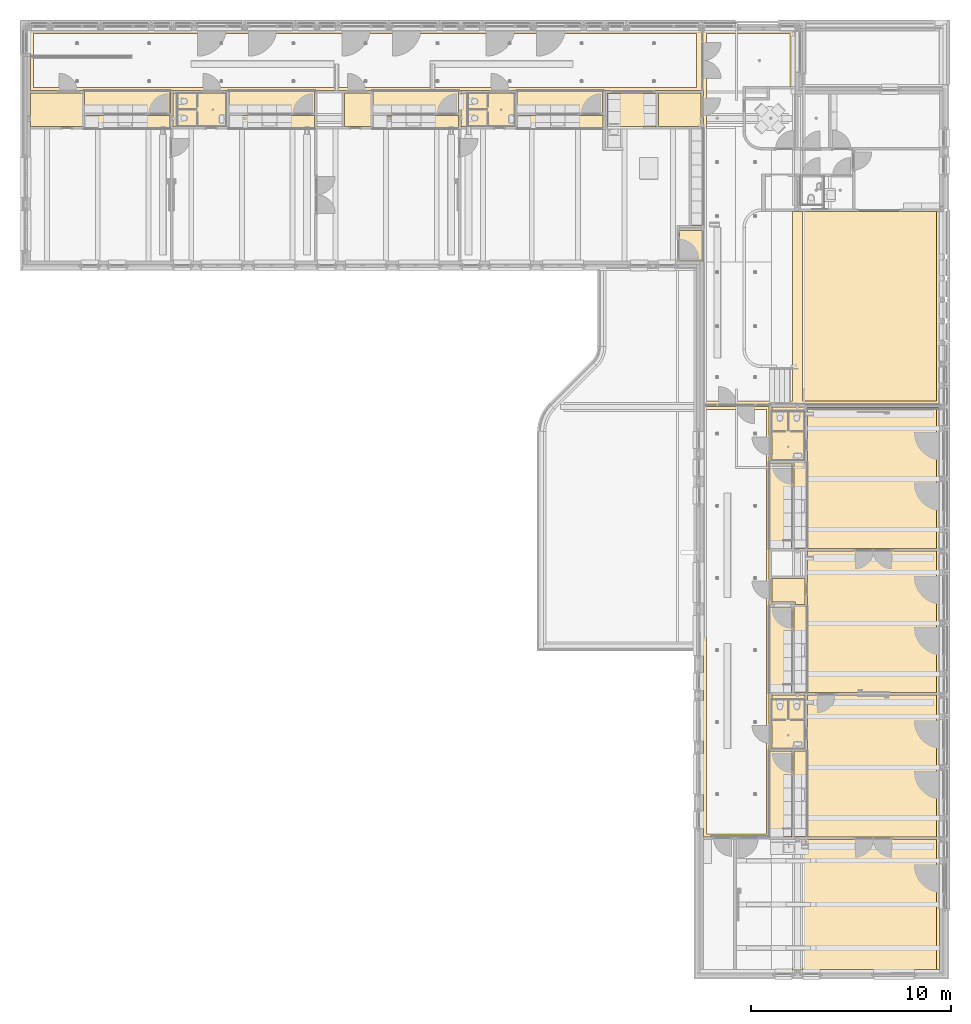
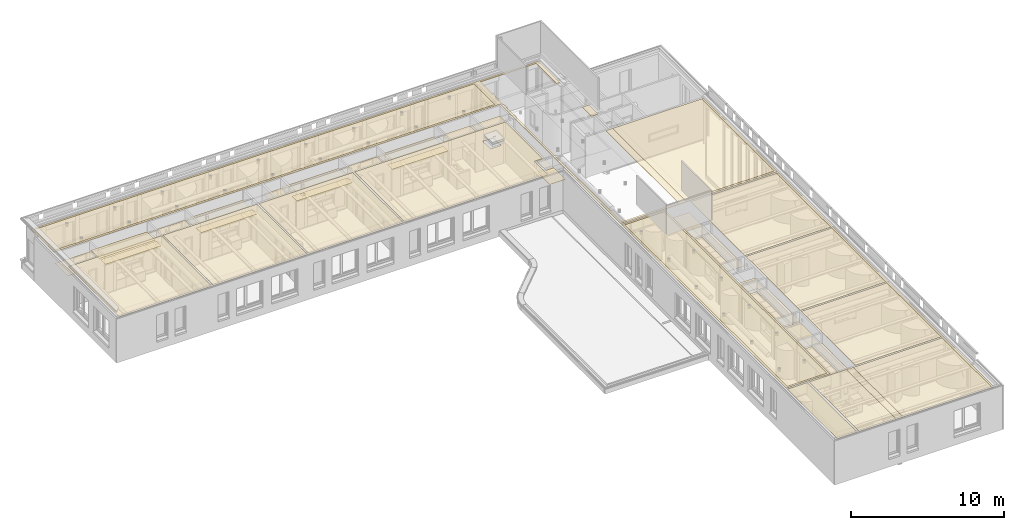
# One storey, part 73 of 128: 21 coverings.
"""IFC2X3 building model written with IfcOpenShell, lengths in millimetres."""

from ifc_helpers import new_model, entity, si_unit, converted_unit, derived_unit, direction, frame, frame_2d, origin, origin_2d_with_axis, place, context, subcontext, project, spatial, polyline, circle_curve, parameter, trimmed, segment, composite_curve, rectangle, outline, extrude, material, layer, layer_set, layer_usage, type_object, element, save


model = new_model("IFC2X3")

# Units and contexts
model_context = context("Model", 3, precision=0.01, world=origin(), true_north=direction((6.123031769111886e-17, 1.0)))
body_context = subcontext(model_context, "Body", "Model", "MODEL_VIEW")
ifc_project = project(units=[si_unit("LENGTHUNIT", "METRE", prefix="MILLI"), si_unit("AREAUNIT", "SQUARE_METRE"), si_unit("VOLUMEUNIT", "CUBIC_METRE"), converted_unit("PLANEANGLEUNIT", "DEGREE", entity("IfcRatioMeasure", 0.017453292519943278), si_unit("PLANEANGLEUNIT", "RADIAN"), dimensions=[0, 0, 0, 0, 0, 0, 0]), si_unit("MASSUNIT", "GRAM", prefix="KILO"), derived_unit("MASSDENSITYUNIT", [(si_unit("MASSUNIT", "GRAM", prefix="KILO"), 1), (si_unit("LENGTHUNIT", "METRE"), -3)]), derived_unit("IONCONCENTRATIONUNIT", [(si_unit("MASSUNIT", "GRAM", prefix="KILO"), 1), (si_unit("LENGTHUNIT", "METRE"), -3)]), derived_unit("MOMENTOFINERTIAUNIT", [(si_unit("LENGTHUNIT", "METRE"), 4)]), si_unit("TIMEUNIT", "SECOND"), si_unit("FREQUENCYUNIT", "HERTZ"), si_unit("THERMODYNAMICTEMPERATUREUNIT", "DEGREE_CELSIUS"), derived_unit("THERMALTRANSMITTANCEUNIT", [(si_unit("MASSUNIT", "GRAM", prefix="KILO"), 1), (si_unit("THERMODYNAMICTEMPERATUREUNIT", "KELVIN"), -1), (si_unit("TIMEUNIT", "SECOND"), -3)]), derived_unit("THERMALCONDUCTANCEUNIT", [(si_unit("MASSUNIT", "GRAM", prefix="KILO"), 1), (si_unit("THERMODYNAMICTEMPERATUREUNIT", "KELVIN"), -1), (si_unit("TIMEUNIT", "SECOND"), -3), (si_unit("LENGTHUNIT", "METRE"), 1)]), derived_unit("VOLUMETRICFLOWRATEUNIT", [(si_unit("LENGTHUNIT", "METRE"), 3), (si_unit("TIMEUNIT", "SECOND"), -1)]), derived_unit("MASSFLOWRATEUNIT", [(si_unit("MASSUNIT", "GRAM", prefix="KILO"), 1), (si_unit("TIMEUNIT", "SECOND"), -1)]), derived_unit("ROTATIONALFREQUENCYUNIT", [(si_unit("TIMEUNIT", "SECOND"), -1)]), si_unit("ELECTRICCURRENTUNIT", "AMPERE"), si_unit("ELECTRICVOLTAGEUNIT", "VOLT"), si_unit("POWERUNIT", "WATT"), si_unit("FORCEUNIT", "NEWTON", prefix="KILO"), si_unit("ILLUMINANCEUNIT", "LUX"), si_unit("LUMINOUSFLUXUNIT", "LUMEN"), si_unit("LUMINOUSINTENSITYUNIT", "CANDELA"), derived_unit("USERDEFINED", [(si_unit("MASSUNIT", "GRAM", prefix="KILO"), -1), (si_unit("LENGTHUNIT", "METRE"), -2), (si_unit("TIMEUNIT", "SECOND"), 3), (si_unit("LUMINOUSFLUXUNIT", "LUMEN"), 1)]), derived_unit("USERDEFINED", [(si_unit("MASSUNIT", "GRAM", prefix="KILO"), 1), (si_unit("TIMEUNIT", "SECOND"), -3), (si_unit("LENGTHUNIT", "METRE"), 3), (si_unit("ELECTRICCURRENTUNIT", "AMPERE"), -2)]), derived_unit("SOUNDPOWERUNIT", [(si_unit("MASSUNIT", "GRAM", prefix="KILO"), 1), (si_unit("TIMEUNIT", "SECOND"), -3), (si_unit("LENGTHUNIT", "METRE"), 2)]), derived_unit("SOUNDPRESSUREUNIT", [(si_unit("MASSUNIT", "GRAM", prefix="KILO"), 1), (si_unit("LENGTHUNIT", "METRE"), -1), (si_unit("TIMEUNIT", "SECOND"), -2)]), derived_unit("LINEARVELOCITYUNIT", [(si_unit("LENGTHUNIT", "METRE"), 1), (si_unit("TIMEUNIT", "SECOND"), -1)]), si_unit("PRESSUREUNIT", "PASCAL"), derived_unit("USERDEFINED", [(si_unit("MASSUNIT", "GRAM", prefix="KILO"), 1), (si_unit("LENGTHUNIT", "METRE"), -2), (si_unit("TIMEUNIT", "SECOND"), -2)]), derived_unit("LINEARFORCEUNIT", [(si_unit("MASSUNIT", "GRAM", prefix="KILO"), 1), (si_unit("TIMEUNIT", "SECOND"), -2)]), derived_unit("PLANARFORCEUNIT", [(si_unit("MASSUNIT", "GRAM", prefix="KILO"), 1), (si_unit("LENGTHUNIT", "METRE"), -1), (si_unit("TIMEUNIT", "SECOND"), -2)]), derived_unit("SPECIFICHEATCAPACITYUNIT", [(si_unit("THERMODYNAMICTEMPERATUREUNIT", "KELVIN"), -1), (si_unit("LENGTHUNIT", "METRE"), 2), (si_unit("TIMEUNIT", "SECOND"), -2)]), derived_unit("HEATINGVALUEUNIT", [(si_unit("LENGTHUNIT", "METRE"), 2), (si_unit("TIMEUNIT", "SECOND"), -2)]), derived_unit("VAPORPERMEABILITYUNIT", [(si_unit("LENGTHUNIT", "METRE"), -1), (si_unit("TIMEUNIT", "SECOND"), 1)]), derived_unit("DYNAMICVISCOSITYUNIT", [(si_unit("MASSUNIT", "GRAM", prefix="KILO"), 1), (si_unit("TIMEUNIT", "SECOND"), -1), (si_unit("LENGTHUNIT", "METRE"), -1)]), derived_unit("THERMALEXPANSIONCOEFFICIENTUNIT", [(si_unit("THERMODYNAMICTEMPERATUREUNIT", "KELVIN"), -1)]), derived_unit("MODULUSOFELASTICITYUNIT", [(si_unit("MASSUNIT", "GRAM", prefix="KILO"), 1), (si_unit("LENGTHUNIT", "METRE"), -1), (si_unit("TIMEUNIT", "SECOND"), -2)]), derived_unit("ISOTHERMALMOISTURECAPACITYUNIT", [(si_unit("LENGTHUNIT", "METRE"), 3), (si_unit("MASSUNIT", "GRAM", prefix="KILO"), -1)]), derived_unit("MOISTUREDIFFUSIVITYUNIT", [(si_unit("TIMEUNIT", "SECOND"), -1), (si_unit("LENGTHUNIT", "METRE"), 2)])], contexts=[model_context])

# Site, building, storey
site_placement = place(None, frame((0.0, 300.0, 0.0)))
site = spatial("IfcSite", under=ifc_project, at=site_placement, Name="<Kadastrale nummers>", CompositionType="ELEMENT")
building_placement = place(site_placement, origin())
building = spatial("IfcBuilding", under=site, at=building_placement, CompositionType="ELEMENT")
storey_placement = place(building_placement, frame((0.0, 0.0, 3560.0000331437)))
storey = spatial("IfcBuildingStorey", under=building, at=storey_placement, Name="01 eerste verdieping", CompositionType="ELEMENT", Elevation=3560.0000331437)

# Coverings
ifc_material_1 = material(Name="ISR_Paneel")
ifc_layer_1 = layer(ifc_material_1, 25.0)
ifc_layer_set_1 = layer_set([ifc_layer_1], Name="Compound Ceiling:300_45_plaatwerk_25mm")
ifc_layer_usage_1 = layer_usage(ifc_layer_set_1, "AXIS3", "POSITIVE", 0.0)
covering_type_1 = type_object("IfcCoveringType", Name="Compound Ceiling:300_45_plaatwerk_25mm", PredefinedType="CEILING")
covering_1_placement = place(storey_placement, origin())
element("IfcCovering", 1, at=covering_1_placement, inside=storey, type_object=covering_type_1, material=ifc_layer_usage_1, Name="Compound Ceiling:300_45_plaatwerk_25mm", ObjectType="Compound Ceiling:300_45_plaatwerk_25mm", PredefinedType="CEILING", context=body_context, shape_type="SweptSolid", body=[
    extrude(rectangle(XDim=4274.999999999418, YDim=1100.0000133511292, at=frame_2d((0.0, 4.320099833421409e-12), x_axis=(1.0, 0.0))), frame((29537.500000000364, 46125.0, 2490.000024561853), z_axis=(0.0, 0.0, 1.0), x_axis=(-1.0, 0.0, 0.0)), (0.0, 0.0, 1.0), 24.99999999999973),
])
covering_2_placement = place(storey_placement, origin())
element("IfcCovering", 2, at=covering_2_placement, inside=storey, type_object=covering_type_1, material=ifc_layer_usage_1, Name="Compound Ceiling:300_45_plaatwerk_25mm", ObjectType="Compound Ceiling:300_45_plaatwerk_25mm", PredefinedType="CEILING", context=body_context, shape_type="SweptSolid", body=[
    extrude(rectangle(XDim=4274.999999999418, YDim=1100.0000133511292, at=frame_2d((0.0, 4.320099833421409e-12), x_axis=(1.0, 0.0))), frame((22342.49999999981, 46125.0, 2490.000024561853), z_axis=(0.0, 0.0, 1.0), x_axis=(-1.0, 0.0, 0.0)), (0.0, 0.0, 1.0), 24.99999999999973),
])
covering_3_placement = place(storey_placement, origin())
element("IfcCovering", 3, at=covering_3_placement, inside=storey, type_object=covering_type_1, material=ifc_layer_usage_1, Name="Compound Ceiling:300_45_plaatwerk_25mm", ObjectType="Compound Ceiling:300_45_plaatwerk_25mm", PredefinedType="CEILING", context=body_context, shape_type="SweptSolid", body=[
    extrude(rectangle(XDim=4209.999999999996, YDim=1100.0000133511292, at=frame_2d((6.821210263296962e-13, 4.320099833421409e-12), x_axis=(1.0, 0.0))), frame((7975.0, 46125.0, 2490.000024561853), z_axis=(0.0, 0.0, 1.0), x_axis=(-1.0, 0.0, 0.0)), (0.0, 0.0, 1.0), 24.99999999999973),
])
covering_4_placement = place(storey_placement, origin())
element("IfcCovering", 4, at=covering_4_placement, inside=storey, type_object=covering_type_1, material=ifc_layer_usage_1, Name="Compound Ceiling:300_45_plaatwerk_25mm", ObjectType="Compound Ceiling:300_45_plaatwerk_25mm", PredefinedType="CEILING", context=body_context, shape_type="SweptSolid", body=[
    extrude(rectangle(XDim=4274.999999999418, YDim=1100.0000133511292, at=frame_2d((0.0, -4.320099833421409e-12), x_axis=(1.0, 0.0))), frame((7937.500000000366, 46125.0, 2490.000024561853), z_axis=(0.0, 0.0, 1.0), x_axis=(-1.0, 0.0, 0.0)), (0.0, 0.0, 1.0), 24.99999999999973),
])
covering_5_placement = place(storey_placement, origin())
element("IfcCovering", 5, at=covering_5_placement, inside=storey, type_object=covering_type_1, material=ifc_layer_usage_1, Name="Compound Ceiling:300_45_plaatwerk_25mm", ObjectType="Compound Ceiling:300_45_plaatwerk_25mm", PredefinedType="CEILING", context=body_context, shape_type="SweptSolid", body=[
    extrude(rectangle(XDim=1099.3999999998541, YDim=4274.99999999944, at=frame_2d((0.0, -2.2737367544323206e-12), x_axis=(1.0, 0.0))), frame((40564.69999999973, 25972.498623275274, 2490.000024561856), z_axis=(0.0, 0.0, 1.0), x_axis=(-1.0, 0.0, 0.0)), (0.0, 0.0, 1.0), 24.99999999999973),
])

# Space
space_1_placement = place(storey_placement, origin())
space_1 = spatial("IfcSpace", under=storey, at=space_1_placement, Name="1.21", CompositionType="ELEMENT", InteriorOrExteriorSpace="INTERNAL")

# Coverings
covering_6_placement = place(space_1_placement, origin())
element("IfcCovering", 6, at=covering_6_placement, inside=space_1, type_object=covering_type_1, material=ifc_layer_usage_1, Name="Compound Ceiling:300_45_plaatwerk_25mm", ObjectType="Compound Ceiling:300_45_plaatwerk_25mm", PredefinedType="CEILING", context=body_context, shape_type="SweptSolid", body=[
    extrude(rectangle(XDim=640.5999999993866, YDim=4289.999999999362, at=origin_2d_with_axis()), frame((41554.69999999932, 25979.998623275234, 2490.000024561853), z_axis=(0.0, 0.0, 1.0), x_axis=(-1.0, 0.0, 0.0)), (0.0, 0.0, 1.0), 24.99999999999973),
])
covering_7_placement = place(storey_placement, origin())
element("IfcCovering", 7, at=covering_7_placement, inside=storey, type_object=covering_type_1, material=ifc_layer_usage_1, Name="Compound Ceiling:300_45_plaatwerk_25mm", ObjectType="Compound Ceiling:300_45_plaatwerk_25mm", PredefinedType="CEILING", context=body_context, shape_type="SweptSolid", body=[
    extrude(rectangle(XDim=1099.3999999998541, YDim=4274.99999999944, at=frame_2d((0.0, 2.2737367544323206e-12), x_axis=(1.0, 0.0))), frame((40564.69999999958, 18772.497246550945, 2490.000024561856), z_axis=(0.0, 0.0, 1.0), x_axis=(-1.0, 0.0, 0.0)), (0.0, 0.0, 1.0), 24.99999999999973),
])

# Space
space_2_placement = place(storey_placement, origin())
space_2 = spatial("IfcSpace", under=storey, at=space_2_placement, Name="1.22", CompositionType="ELEMENT", InteriorOrExteriorSpace="INTERNAL")

# Coverings
covering_8_placement = place(space_2_placement, origin())
element("IfcCovering", 8, at=covering_8_placement, inside=space_2, type_object=covering_type_1, material=ifc_layer_usage_1, Name="Compound Ceiling:300_45_plaatwerk_25mm", ObjectType="Compound Ceiling:300_45_plaatwerk_25mm", PredefinedType="CEILING", context=body_context, shape_type="SweptSolid", body=[
    extrude(rectangle(XDim=640.5999999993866, YDim=4289.999999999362, at=origin_2d_with_axis()), frame((41554.699999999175, 18779.9972465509, 2490.000024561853), z_axis=(0.0, 0.0, 1.0), x_axis=(-1.0, 0.0, 0.0)), (0.0, 0.0, 1.0), 24.99999999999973),
])
covering_9_placement = place(storey_placement, origin())
element("IfcCovering", 9, at=covering_9_placement, inside=storey, type_object=covering_type_1, material=ifc_layer_usage_1, Name="Compound Ceiling:300_45_plaatwerk_25mm", ObjectType="Compound Ceiling:300_45_plaatwerk_25mm", PredefinedType="CEILING", context=body_context, shape_type="SweptSolid", body=[
    extrude(rectangle(XDim=1099.3999999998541, YDim=4274.99999999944, at=origin_2d_with_axis()), frame((40564.699999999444, 11572.497246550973, 2490.000024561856), z_axis=(0.0, 0.0, 1.0), x_axis=(-1.0, 0.0, 0.0)), (0.0, 0.0, 1.0), 24.99999999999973),
])

# Space
space_3_placement = place(storey_placement, origin())
space_3 = spatial("IfcSpace", under=storey, at=space_3_placement, Name="1.23", CompositionType="ELEMENT", InteriorOrExteriorSpace="INTERNAL")

# Covering
covering_10_placement = place(space_3_placement, origin())
element("IfcCovering", 10, at=covering_10_placement, inside=space_3, type_object=covering_type_1, material=ifc_layer_usage_1, Name="Compound Ceiling:300_45_plaatwerk_25mm", ObjectType="Compound Ceiling:300_45_plaatwerk_25mm", PredefinedType="CEILING", context=body_context, shape_type="SweptSolid", body=[
    extrude(rectangle(XDim=640.5999999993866, YDim=4289.999999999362, at=origin_2d_with_axis()), frame((41554.69999999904, 11579.99724655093, 2490.000024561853), z_axis=(0.0, 0.0, 1.0), x_axis=(-1.0, 0.0, 0.0)), (0.0, 0.0, 1.0), 24.99999999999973),
])

# Space
space_4_placement = place(storey_placement, origin())
space_4 = spatial("IfcSpace", under=storey, at=space_4_placement, Name="1.01", CompositionType="ELEMENT", InteriorOrExteriorSpace="INTERNAL")

# Covering
covering_11_placement = place(space_4_placement, origin())
element("IfcCovering", 11, at=covering_11_placement, inside=space_4, type_object=covering_type_1, material=ifc_layer_usage_1, Name="Compound Ceiling:300_45_plaatwerk_25mm", ObjectType="Compound Ceiling:300_45_plaatwerk_25mm", PredefinedType="CEILING", context=body_context, shape_type="SweptSolid", body=[
    extrude(rectangle(XDim=635.0000000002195, YDim=4194.998623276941, at=origin_2d_with_axis()), frame((7967.500688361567, 45132.50000000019, 2490.000024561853), z_axis=(0.0, 0.0, 1.0), x_axis=(0.0, 1.0, 0.0)), (0.0, 0.0, 1.0), 24.99999999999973),
])

# Space
space_5_placement = place(storey_placement, origin())
space_5 = spatial("IfcSpace", under=storey, at=space_5_placement, Name="1.03", CompositionType="ELEMENT", InteriorOrExteriorSpace="INTERNAL")

# Covering
covering_12_placement = place(space_5_placement, origin())
element("IfcCovering", 12, at=covering_12_placement, inside=space_5, type_object=covering_type_1, material=ifc_layer_usage_1, Name="Compound Ceiling:300_45_plaatwerk_25mm", ObjectType="Compound Ceiling:300_45_plaatwerk_25mm", PredefinedType="CEILING", context=body_context, shape_type="SweptSolid", body=[
    extrude(outline(polyline([(-317.50000000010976, -2097.4993116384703), (317.50000000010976, -2097.4993116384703), (317.50000000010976, 2097.4993116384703), (-317.50000000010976, 2097.4993116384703), (-317.50000000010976, -2097.4993116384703)]), holes=[polyline([(3.4324708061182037, 1246.5006883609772), (3.4324708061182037, 1507.5006883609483), (249.89808284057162, 1507.5006883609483), (249.89808284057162, 1246.5006883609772), (3.4324708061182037, 1246.5006883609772)])]), frame((22372.50068836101, 45132.50000000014, 2490.000024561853), z_axis=(0.0, 0.0, 1.0), x_axis=(0.0, 1.0, 0.0)), (0.0, 0.0, 1.0), 24.99999999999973),
])

# Space
space_6_placement = place(storey_placement, origin())
space_6 = spatial("IfcSpace", under=storey, at=space_6_placement, Name="1.04", CompositionType="ELEMENT", InteriorOrExteriorSpace="INTERNAL")

# Covering
covering_13_placement = place(space_6_placement, origin())
element("IfcCovering", 13, at=covering_13_placement, inside=space_6, type_object=covering_type_1, material=ifc_layer_usage_1, Name="Compound Ceiling:300_45_plaatwerk_25mm", ObjectType="Compound Ceiling:300_45_plaatwerk_25mm", PredefinedType="CEILING", context=body_context, shape_type="SweptSolid", body=[
    extrude(rectangle(XDim=635.0000000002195, YDim=4209.998623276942, at=frame_2d((0.0, 2.0463630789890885e-12), x_axis=(1.0, 0.0))), frame((29575.000688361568, 45132.50000000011, 2490.000024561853), z_axis=(0.0, 0.0, 1.0), x_axis=(0.0, 1.0, 0.0)), (0.0, 0.0, 1.0), 24.99999999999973),
])

# Space
space_7_placement = place(storey_placement, origin())
space_7 = spatial("IfcSpace", under=storey, at=space_7_placement, Name="1.12", CompositionType="ELEMENT", InteriorOrExteriorSpace="INTERNAL")

# Coverings
covering_14_placement = place(space_7_placement, origin())
element("IfcCovering", 14, at=covering_14_placement, inside=space_7, type_object=covering_type_1, material=ifc_layer_usage_1, Name="Compound Ceiling:300_45_plaatwerk_25mm", ObjectType="Compound Ceiling:300_45_plaatwerk_25mm", PredefinedType="CEILING", context=body_context, shape_type="SweptSolid", body=[
    extrude(rectangle(XDim=1520.0000000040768, YDim=1175.0000000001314, at=frame_2d((-2.1600499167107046e-12, -2.1600499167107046e-12), x_axis=(1.0, 0.0))), frame((36087.500000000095, 38960.0, 2490.000024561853), z_axis=(0.0, 0.0, 1.0), x_axis=(0.0, 1.0, 0.0)), (0.0, 0.0, 1.0), 24.99999999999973),
])
covering_15_placement = place(storey_placement, origin())
element("IfcCovering", 15, at=covering_15_placement, inside=storey, type_object=covering_type_1, material=ifc_layer_usage_1, Name="Compound Ceiling:300_45_plaatwerk_25mm", ObjectType="Compound Ceiling:300_45_plaatwerk_25mm", PredefinedType="CEILING", context=body_context, shape_type="SweptSolid", body=[
    extrude(rectangle(XDim=4274.999999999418, YDim=1100.0000133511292, at=frame_2d((0.0, 4.320099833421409e-12), x_axis=(1.0, 0.0))), frame((15142.50000000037, 46125.0, 2490.000024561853), z_axis=(0.0, 0.0, 1.0), x_axis=(-1.0, 0.0, 0.0)), (0.0, 0.0, 1.0), 24.99999999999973),
])

# Space
space_8_placement = place(storey_placement, origin())
space_8 = spatial("IfcSpace", under=storey, at=space_8_placement, Name="1.02", CompositionType="ELEMENT", InteriorOrExteriorSpace="INTERNAL")

# Coverings
covering_16_placement = place(space_8_placement, origin())
element("IfcCovering", 16, at=covering_16_placement, inside=space_8, type_object=covering_type_1, material=ifc_layer_usage_1, Name="Compound Ceiling:300_45_plaatwerk_25mm", ObjectType="Compound Ceiling:300_45_plaatwerk_25mm", PredefinedType="CEILING", context=body_context, shape_type="SweptSolid", body=[
    extrude(rectangle(XDim=635.0000000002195, YDim=4194.998623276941, at=origin_2d_with_axis()), frame((15172.500688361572, 45132.50000000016, 2490.000024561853), z_axis=(0.0, 0.0, 1.0), x_axis=(0.0, 1.0, 0.0)), (0.0, 0.0, 1.0), 24.99999999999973),
])
covering_17_placement = place(space_6_placement, origin())
element("IfcCovering", 17, at=covering_17_placement, inside=space_6, type_object=covering_type_1, material=ifc_layer_usage_1, Name="Compound Ceiling:300_45_plaatwerk_25mm", ObjectType="Compound Ceiling:300_45_plaatwerk_25mm", PredefinedType="CEILING", context=body_context, shape_type="SweptSolid", body=[
    extrude(rectangle(XDim=1659.9999999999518, YDim=2420.000000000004, at=origin_2d_with_axis()), frame((33130.0, 45745.0, 2490.000024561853), z_axis=(0.0, 0.0, 1.0), x_axis=(0.0, 1.0, 0.0)), (0.0, 0.0, 1.0), 24.99999999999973),
])

# Space
space_9_placement = place(storey_placement, origin())
space_9 = spatial("IfcSpace", under=storey, at=space_9_placement, Name="1.10", CompositionType="ELEMENT", InteriorOrExteriorSpace="INTERNAL")

# Coverings
ifc_material_2 = material(Name="ISR_Paneel(2)")
ifc_layer_2 = layer(ifc_material_2, 25.0)
ifc_layer_set_2 = layer_set([ifc_layer_2], Name="Compound Ceiling:300_45_plaatwerk_25mm plafond 2")
ifc_layer_usage_2 = layer_usage(ifc_layer_set_2, "AXIS3", "POSITIVE", 0.0)
covering_type_2 = type_object("IfcCoveringType", Name="Compound Ceiling:300_45_plaatwerk_25mm plafond 2", PredefinedType="CEILING")
covering_18_placement = place(space_9_placement, origin())
element("IfcCovering", 18, at=covering_18_placement, inside=space_9, type_object=covering_type_2, material=ifc_layer_usage_2, Name="Compound Ceiling:300_45_plaatwerk_25mm plafond 2", ObjectType="Compound Ceiling:300_45_plaatwerk_25mm plafond 2", PredefinedType="CEILING", context=body_context, shape_type="SweptSolid", body=[
    extrude(rectangle(XDim=4820.000000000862, YDim=575.0000000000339, at=frame_2d((0.0, 2.1600499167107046e-12), x_axis=(1.0, 0.0))), frame((36387.50000000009, 42380.0, 2490.000024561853), z_axis=(0.0, 0.0, 1.0), x_axis=(0.0, 1.0, 0.0)), (0.0, 0.0, 1.0), 24.99999999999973),
])
covering_19_placement = place(storey_placement, origin())
element("IfcCovering", 19, at=covering_19_placement, inside=storey, type_object=covering_type_2, material=ifc_layer_usage_2, Name="Compound Ceiling:300_45_plaatwerk_25mm plafond 2", ObjectType="Compound Ceiling:300_45_plaatwerk_25mm plafond 2", PredefinedType="CEILING", context=body_context, shape_type="SweptSolid", body=[
    extrude(rectangle(XDim=2674.999999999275, YDim=1659.9999999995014, at=frame_2d((6.480149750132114e-12, 0.0), x_axis=(1.0, 0.0))), frame((40955.0, 15172.498623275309, 2490.000024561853), z_axis=(0.0, 0.0, 1.0), x_axis=(0.0, 1.0, 0.0)), (0.0, 0.0, 1.0), 24.99999999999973),
    extrude(rectangle(XDim=2110.0000000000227, YDim=1659.9999999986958, at=origin_2d_with_axis()), frame((35520.0, 45745.0, 2490.000024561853)), (0.0, 0.0, 1.0), 24.99999999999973),
    extrude(rectangle(XDim=1659.9999999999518, YDim=2644.9999999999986, at=frame_2d((1.7337242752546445e-11, -5.684341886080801e-13), x_axis=(1.0, 0.0))), frame((4422.500000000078, 45745.0, 2490.000024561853), z_axis=(0.0, 0.0, 1.0), x_axis=(0.0, 1.0, 0.0)), (0.0, 0.0, 1.0), 24.99999999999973),
    extrude(rectangle(XDim=1659.99999999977, YDim=2670.0000000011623, at=frame_2d((-7.366907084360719e-11, -2.88082446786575e-10), x_axis=(1.0, 0.0))), frame((11540.0, 45745.0, 2490.000024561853), z_axis=(0.0, 0.0, 1.0), x_axis=(0.0, 1.0, 0.0)), (0.0, 0.0, 1.0), 24.99999999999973),
    extrude(rectangle(XDim=1659.9999999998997, YDim=2720.0013767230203, at=frame_2d((0.0, 6.480149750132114e-12), x_axis=(1.0, 0.0))), frame((25965.00068836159, 45745.0, 2490.000024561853), z_axis=(0.0, 0.0, 1.0), x_axis=(0.0, 1.0, 0.0)), (0.0, 0.0, 1.0), 24.99999999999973),
    extrude(rectangle(XDim=1660.000000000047, YDim=1335.001376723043, at=frame_2d((-3.89945853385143e-11, 0.0), x_axis=(1.0, 0.0))), frame((19457.500688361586, 45745.0, 2490.000024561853), z_axis=(0.0, 0.0, 1.0), x_axis=(0.0, 1.0, 0.0)), (0.0, 0.0, 1.0), 24.99999999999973),
    extrude(rectangle(XDim=2670.000000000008, YDim=1660.0000000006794, at=frame_2d((2.1600499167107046e-12, -2.5988811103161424e-10), x_axis=(1.0, 0.0))), frame((40955.0, 29575.0, 2490.000024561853), z_axis=(0.0, 0.0, 1.0), x_axis=(0.0, 1.0, 0.0)), (0.0, 0.0, 1.0), 24.99999999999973),
    extrude(outline(polyline([(-814.1666666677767, -948.6603511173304), (338.3333333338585, -948.6603511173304), (338.3333333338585, 237.320702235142), (475.83333333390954, 237.320702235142), (475.83333333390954, 711.3396488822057), (-814.1666666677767, 711.339648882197), (-814.1666666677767, -948.6603511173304)])), frame((41073.66035111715, 21510.830579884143, 2490.000024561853), z_axis=(0.0, 0.0, 1.0), x_axis=(0.0, -1.0, 0.0)), (0.0, 0.0, 1.0), 24.99999999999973),
])
ifc_material_3 = material(Name="ISR_Stucwerk_wit")
ifc_layer_3 = layer(ifc_material_3, 35.0)
ifc_layer_set_3 = layer_set([ifc_layer_3], Name="Compound Ceiling:300_45_akoestisch spuitwerk")
ifc_layer_usage_3 = layer_usage(ifc_layer_set_3, "AXIS3", "POSITIVE", 0.0)
covering_type_3 = type_object("IfcCoveringType", Name="Compound Ceiling:300_45_akoestisch spuitwerk", PredefinedType="CEILING")
covering_20_placement = place(storey_placement, origin())
element("IfcCovering", 20, at=covering_20_placement, inside=storey, type_object=covering_type_3, material=ifc_layer_usage_3, Name="Compound Ceiling:300_45_akoestisch spuitwerk", ObjectType="Compound Ceiling:300_45_akoestisch spuitwerk", PredefinedType="CEILING", context=body_context, shape_type="SweptSolid", body=[
    extrude(rectangle(XDim=6590.000000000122, YDim=6979.999999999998, at=frame_2d((4.320099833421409e-12, 0.0), x_axis=(1.0, 0.0))), frame((6590.0, 41495.0, 3295.0), z_axis=(0.0, 0.0, 1.0), x_axis=(0.0, 1.0, 0.0)), (0.0, 0.0, 1.0), 34.99999999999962),
    extrude(rectangle(XDim=6510.000000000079, YDim=6695.000000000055, at=frame_2d((2.2737367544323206e-12, 0.0), x_axis=(1.0, 0.0))), frame((45002.50000000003, 6054.998623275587, 3295.0), z_axis=(0.0, 0.0, 1.0), x_axis=(0.0, 1.0, 0.0)), (0.0, 0.0, 1.0), 34.99999999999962),
    extrude(rectangle(XDim=7075.000000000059, YDim=6589.999999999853, at=frame_2d((2.0463630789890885e-12, 1.127773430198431e-10), x_axis=(1.0, 0.0))), frame((20942.50000000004, 41495.0, 3295.0)), (0.0, 0.0, 1.0), 34.99999999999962),
    extrude(rectangle(XDim=2794.9999999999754, YDim=6510.000000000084, at=frame_2d((-2.1600499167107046e-12, 0.0), x_axis=(1.0, 0.0))), frame((39747.50000000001, 6054.998623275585, 3295.0)), (0.0, 0.0, 1.0), 34.99999999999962),
    extrude(rectangle(XDim=6450.000000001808, YDim=7074.99999999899, at=frame_2d((0.0, 2.0463630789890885e-12), x_axis=(1.0, 0.0))), frame((45125.0, 12972.49862327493, 3295.0)), (0.0, 0.0, 1.0), 34.99999999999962),
    extrude(rectangle(XDim=6450.000000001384, YDim=7074.999999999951, at=frame_2d((4.320099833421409e-12, 0.0), x_axis=(1.0, 0.0))), frame((45125.0, 20172.498623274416, 3295.0)), (0.0, 0.0, 1.0), 34.99999999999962),
    extrude(rectangle(XDim=6450.00000000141, YDim=7075.001376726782, at=frame_2d((0.0, -2.2737367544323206e-12), x_axis=(1.0, 0.0))), frame((45125.0, 27372.499311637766, 3295.0)), (0.0, 0.0, 1.0), 34.99999999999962),
    extrude(rectangle(XDim=6590.000000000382, YDim=7079.999999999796, at=frame_2d((-1.3847056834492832e-10, -1.1368683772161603e-12), x_axis=(1.0, 0.0))), frame((13740.0, 41495.0, 3295.0), z_axis=(0.0, 0.0, 1.0), x_axis=(0.0, 1.0, 0.0)), (0.0, 0.0, 1.0), 34.99999999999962),
    extrude(outline(polyline([(-7380.0, -2786.6666666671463), (3390.0, -2786.6666666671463), (3390.0, -1016.66666666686), (3990.0, -1016.66666666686), (3990.0, 3803.3333333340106), (-7380.0, 3803.3333333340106), (-7380.0, -2786.6666666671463)]), holes=[polyline([(2405.0, 1633.332808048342), (1605.0, 1633.3328080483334), (1605.0, 2633.33280804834), (2405.0, 2633.33280804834), (2405.0, 1633.332808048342)])]), frame((31985.0, 40986.66666666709, 3295.0)), (0.0, 0.0, 1.0), 34.99999999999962),
    extrude(rectangle(XDim=9465.000000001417, YDim=6695.000000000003, at=frame_2d((4.547473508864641e-12, 0.0), x_axis=(1.0, 0.0))), frame((45002.50000000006, 35932.50000000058, 3295.0), z_axis=(0.0, 0.0, 1.0), x_axis=(0.0, -1.0, 0.0)), (0.0, 0.0, 1.0), 34.99999999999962),
    extrude(outline(composite_curve([segment(polyline([(-721.2727778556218, 179.85352645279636), (-721.2727778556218, 2056.9785291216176)]), True, "CONTINUOUS"), segment(polyline([(-721.2727778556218, 2056.9785291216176), (823.727307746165, 2056.9785291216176)]), True, "CONTINUOUS"), segment(polyline([(823.727307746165, 2056.9785291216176), (823.7273077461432, 11521.978529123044)]), True, "CONTINUOUS"), segment(polyline([(823.7273077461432, 11521.978529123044), (-3471.2726922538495, 11521.978529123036)]), True, "CONTINUOUS"), segment(polyline([(-3471.2726922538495, 11521.978529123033), (-3471.2726922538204, -4101.550097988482)]), True, "CONTINUOUS"), segment(polyline([(-3471.2726922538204, -4101.550097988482), (-3471.2726922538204, -6828.021470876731)]), True, "CONTINUOUS"), segment(polyline([(-3471.2726922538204, -6828.021470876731), (708.7273077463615, -6828.021470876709)]), True, "CONTINUOUS"), segment(polyline([(708.7273077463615, -6828.021470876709), (708.7273077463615, -4178.021470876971)]), True, "CONTINUOUS"), segment(polyline([(708.7273077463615, -4178.021470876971), (-1646.2727350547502, -4178.021470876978)]), True, "CONTINUOUS"), segment(polyline([(-1646.2727350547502, -4178.021470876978), (-1646.2727350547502, -1945.146473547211)]), True, "CONTINUOUS"), segment(trimmed(circle_curve(frame_2d((-721.2727778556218, -1945.146473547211), x_axis=(1.0, 0.0)), 924.9999571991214), [parameter(89.99999999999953)], [parameter(179.99999999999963)], True, "PARAMETER"), False, "CONTINUOUS"), segment(polyline([(-721.2727778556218, -1020.0214708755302), (3823.7273077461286, -1020.0214708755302)]), True, "CONTINUOUS"), segment(polyline([(3823.7273077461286, -1020.0214708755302), (3823.7273077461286, 179.85352645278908)]), True, "CONTINUOUS"), segment(polyline([(3823.7273077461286, 179.85352645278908), (1333.7273077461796, 179.85352645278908)]), True, "CONTINUOUS"), segment(polyline([(1333.7273077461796, 179.85352645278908), (1333.7273077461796, -1018.0214708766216)]), True, "CONTINUOUS"), segment(polyline([(1333.7273077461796, -1018.0214708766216), (823.7273077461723, -1018.0214708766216)]), True, "CONTINUOUS"), segment(polyline([(823.7273077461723, -1018.0214708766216), (823.7273077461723, 181.85352645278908)]), True, "CONTINUOUS"), segment(polyline([(823.7273077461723, 181.85352645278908), (928.727307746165, 181.85352645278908)]), True, "CONTINUOUS"), segment(polyline([(928.727307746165, 181.85352645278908), (928.727307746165, 1946.9790544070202)]), True, "CONTINUOUS"), segment(polyline([(928.727307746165, 1946.9790544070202), (-507.2729062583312, 1946.9790544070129)]), True, "CONTINUOUS"), segment(polyline([(-507.2729062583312, 1946.9790544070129), (-507.2729062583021, 179.85352645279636)]), True, "CONTINUOUS"), segment(polyline([(-507.2729062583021, 179.85352645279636), (-721.2727778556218, 179.85352645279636)]), True, "CONTINUOUS")], self_intersect=False)), frame((40321.2726922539, 42721.97852912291, 3295.0), z_axis=(0.0, 0.0, -1.0), x_axis=(1.0, 0.0, 0.0)), (0.0, 0.0, -1.0), 34.99999999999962),
    extrude(rectangle(XDim=6509.998623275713, YDim=1499.9999999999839, at=frame_2d((0.0, 2.1600499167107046e-12), x_axis=(1.0, 0.0))), frame((37450.0, 6054.999311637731, 3295.0), z_axis=(0.0, 0.0, 1.0), x_axis=(0.0, 1.0, 0.0)), (0.0, 0.0, 1.0), 34.99999999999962),
    extrude(rectangle(XDim=2699.9999999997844, YDim=33110.0, at=frame_2d((4.320099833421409e-12, -1.8189894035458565e-12), x_axis=(1.0, 0.0))), frame((19805.0, 48200.0, 3295.0), z_axis=(0.0, 0.0, 1.0), x_axis=(0.0, -1.0, 0.0)), (0.0, 0.0, 1.0), 34.99999999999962),
    extrude(rectangle(XDim=2999.9999999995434, YDim=21190.002753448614, at=frame_2d((0.0, -1.8189894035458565e-12), x_axis=(1.0, 0.0))), frame((38350.0, 20179.998623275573, 3295.0)), (0.0, 0.0, 1.0), 34.99999999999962),
])
ifc_material_4 = material(Name="ISR_Plafond")
ifc_layer_4 = layer(ifc_material_4, 45.0)
ifc_layer_set_4 = layer_set([ifc_layer_4], Name="Compound Ceiling:300_45_Gipsplaat_45")
ifc_layer_usage_4 = layer_usage(ifc_layer_set_4, "AXIS3", "POSITIVE", 0.0)
covering_type_4 = type_object("IfcCoveringType", Name="Compound Ceiling:300_45_Gipsplaat_45", PredefinedType="CEILING")
covering_21_placement = place(storey_placement, origin())
element("IfcCovering", 21, at=covering_21_placement, inside=storey, type_object=covering_type_4, material=ifc_layer_usage_4, Name="Compound Ceiling:300_45_Gipsplaat_45", ObjectType="Compound Ceiling:300_45_Gipsplaat_45", PredefinedType="CEILING", context=body_context, shape_type="SweptSolid", body=[
    extrude(outline(polyline([(-8262.323568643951, -33175.2612696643), (-5262.323568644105, -33175.2612696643), (-5262.323568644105, -24880.035876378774), (-5262.3235686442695, 424.73873033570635), (10402.67643135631, 424.7387303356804), (10402.676431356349, 12224.738730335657), (772.676431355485, 12224.738730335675), (772.6764313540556, 12074.7387303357), (10237.676431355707, 12074.738730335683), (10237.676431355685, 5379.73873033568), (772.6764313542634, 5379.738730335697), (772.6764313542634, 4869.738730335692), (10237.676431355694, 4869.7387303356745), (10237.676431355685, 574.7387303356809), (-5385.852195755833, 574.7387303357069), (-8112.32356864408, 574.7387303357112), (-8112.323568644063, 4754.738730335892), (-5462.3235686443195, 4754.738730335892), (-5462.3235686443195, 5024.7387303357), (-8262.323568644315, 5024.7387303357), (-8262.323568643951, -33175.2612696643)]), holes=[polyline([(-8112.32356864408, 84.73873033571), (-5412.3235686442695, 84.73873033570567), (-5412.3235686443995, -33025.2612696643), (-8112.323568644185, -33025.26126966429), (-8112.32356864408, 84.73873033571)])]), frame((36275.26126966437, 41437.67643135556, 3285.0), z_axis=(0.0, 0.0, 1.0), x_axis=(0.0, -1.0, 0.0)), (0.0, 0.0, 1.0), 44.99999999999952),
    extrude(rectangle(XDim=510.00000000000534, YDim=6509.998623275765, at=frame_2d((0.0, 8.86757334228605e-12), x_axis=(1.0, 0.0))), frame((41400.0, 6054.999311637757, 3285.0)), (0.0, 0.0, 1.0), 44.99999999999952),
    extrude(rectangle(XDim=150.0000000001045, YDim=28110.00000000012, at=frame_2d((0.0, -5.3660187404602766e-11), x_axis=(1.0, 0.0))), frame((48425.0, 16855.0, 3285.0), z_axis=(0.0, 0.0, 1.0), x_axis=(-1.0, 0.0, 0.0)), (0.0, 0.0, 1.0), 44.99999999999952),
    extrude(rectangle(XDim=1199.8749973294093, YDim=510.00000000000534, at=origin_2d_with_axis()), frame((41400.0, 43140.062501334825, 3285.0), z_axis=(0.0, 0.0, 1.0), x_axis=(0.0, -1.0, 0.0)), (0.0, 0.0, 1.0), 44.99999999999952),
    extrude(outline(polyline([(-1645.0, -10745.000688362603), (1645.0, -10745.000688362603), (1645.0, 10745.000688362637), (-1645.0, 10745.000688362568), (-1645.0, -10745.000688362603)]), holes=[polyline([(1495.0, 10595.002065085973), (1495.0, -10595.000688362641), (-1505.0, -10595.000688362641), (-1505.0, 10595.002065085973), (1495.0, 10595.002065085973)])]), frame((38345.0, 20179.999311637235, 3285.0), z_axis=(0.0, 0.0, 1.0), x_axis=(-1.0, 0.0, 0.0)), (0.0, 0.0, 1.0), 44.99999999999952),
])

save(model, "model.ifc")
